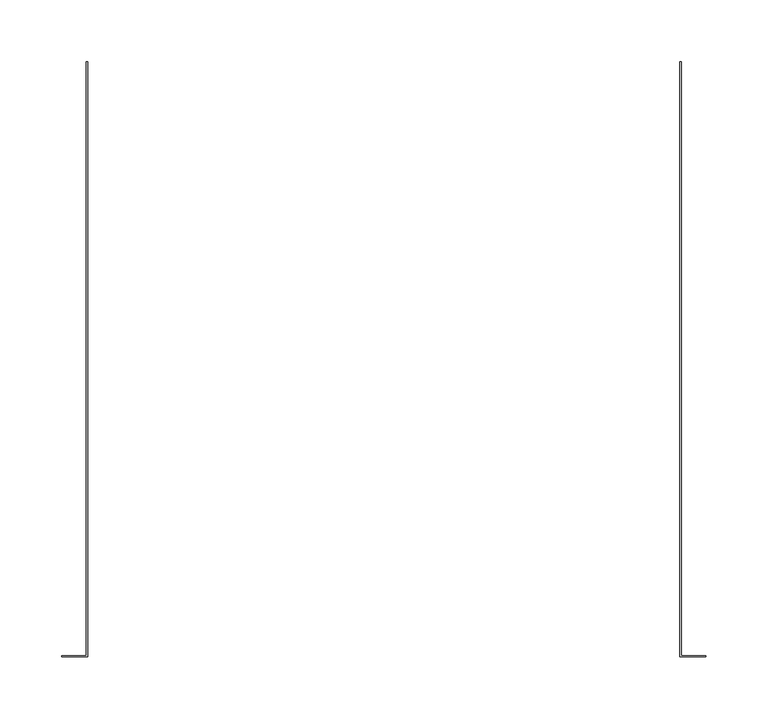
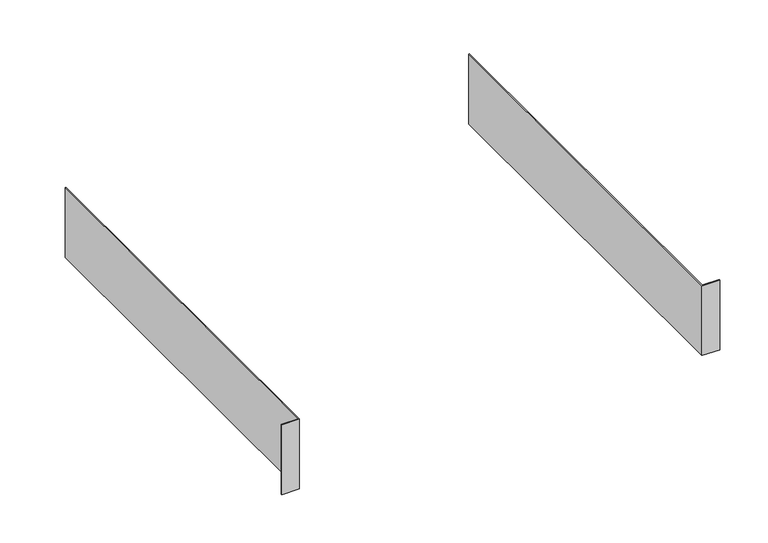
"""IFC4 building model written with IfcOpenShell, lengths in millimetres: proxy geometry, Рельсы для ИБП RAILSMLR : RAILSMLR."""

from ifc_helpers import new_model, si_unit, origin, origin_with_axes, place, context, project, spatial, polyline, outline, extrude, source, transform, mapped, element, save


def electrical_equipment_2c9e7c44(model_context):
    return source(origin(), model_context, "Body", "SweptSolid", [
        extrude(outline(polyline([(-241.0, 1.0), (-241.0, 482.0), (-240.0, 482.0), (-240.0, 0.0), (-261.0, 0.0), (-261.0, 1.0), (-241.0, 1.0)])), origin_with_axes(), (0.0, 0.0, 1.0), 88.0),
        extrude(outline(polyline([(241.0, 1.0), (261.0, 1.0), (261.0, 0.0), (240.0, 0.0), (240.0, 482.0), (241.0, 482.0), (241.0, 1.0)])), origin_with_axes(), (0.0, 0.0, 1.0), 88.0),
    ])


if __name__ == "__main__":
    model = new_model("IFC4")
    model_context = context("Model", 3, world=origin())
    ifc_project = project(units=[si_unit("LENGTHUNIT", "METRE", prefix="MILLI")], contexts=[model_context])
    site = spatial("IfcSite", under=ifc_project)
    building = spatial("IfcBuilding", under=site)
    placement = place(None, origin())
    electrical_equipment_shape = electrical_equipment_2c9e7c44(model_context)
    element("IfcBuildingElementProxy", 1, Name="Рельсы для ИБП RAILSMLR : RAILSMLR", ObjectType="Рельсы для ИБП RAILSMLR : RAILSMLR", at=placement, inside=building, context=model_context, shape_type="MappedRepresentation", body=[
        mapped(electrical_equipment_shape, transform((0.0, 0.0, 0.0), x_axis=(1.0, 0.0, 0.0), y_axis=(0.0, 1.0, 0.0), z_axis=(0.0, 0.0, 1.0))),
    ])
    save(model, "model.ifc")
